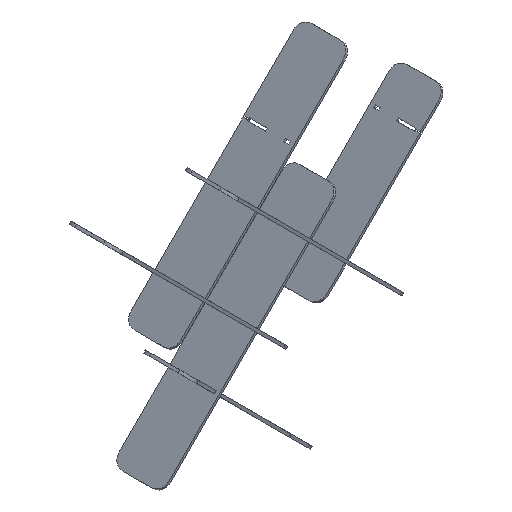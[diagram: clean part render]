
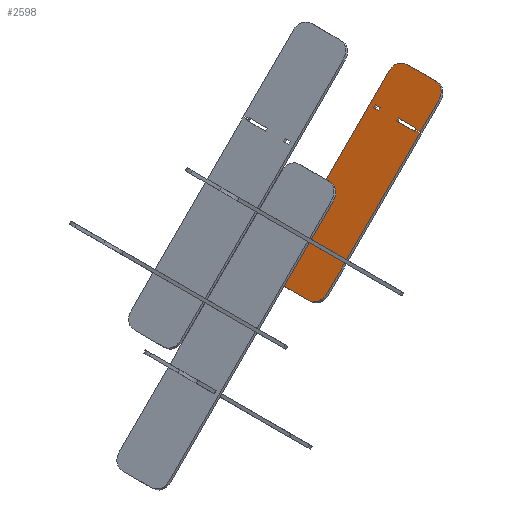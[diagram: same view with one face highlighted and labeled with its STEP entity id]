
A CAD part, isometric view. The second image highlights one B-rep face of the part: STEP entity #2598.
In plain terms, the highlighted planar face has unit normal (-0.707, 0, 0.707) as drawn and (0, 0, 1) by its records, which use the part's own axes.
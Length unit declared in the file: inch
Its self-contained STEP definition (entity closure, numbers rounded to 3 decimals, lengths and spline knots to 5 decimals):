
#61=FACE_BOUND('',#443,.T.);
#62=FACE_BOUND('',#444,.T.);
#176=PLANE('',#2824);
#302=FACE_OUTER_BOUND('',#442,.T.);
#442=EDGE_LOOP('',(#2429,#2430,#2431,#2432,#2433,#2434,#2435,#2436,#2437,
#2438,#2439,#2440,#2441,#2442,#2443,#2444,#2445,#2446,#2447,#2448,#2449,
#2450,#2451,#2452));
#443=EDGE_LOOP('',(#2453,#2454,#2455,#2456));
#444=EDGE_LOOP('',(#2457,#2458,#2459,#2460));
#697=LINE('',#4037,#1033);
#728=LINE('',#4107,#1064);
#731=LINE('',#4115,#1067);
#734=LINE('',#4124,#1070);
#736=LINE('',#4128,#1072);
#738=LINE('',#4132,#1074);
#740=LINE('',#4135,#1076);
#742=LINE('',#4140,#1078);
#744=LINE('',#4144,#1080);
#746=LINE('',#4148,#1082);
#748=LINE('',#4151,#1084);
#749=LINE('',#4154,#1085);
#751=LINE('',#4158,#1087);
#753=LINE('',#4162,#1089);
#755=LINE('',#4166,#1091);
#757=LINE('',#4170,#1093);
#759=LINE('',#4174,#1095);
#761=LINE('',#4178,#1097);
#763=LINE('',#4182,#1099);
#765=LINE('',#4186,#1101);
#767=LINE('',#4190,#1103);
#769=LINE('',#4194,#1105);
#771=LINE('',#4198,#1107);
#773=LINE('',#4202,#1109);
#775=LINE('',#4206,#1111);
#777=LINE('',#4210,#1113);
#779=LINE('',#4213,#1115);
#780=LINE('',#4215,#1116);
#1033=VECTOR('',#3315,0.3937);
#1064=VECTOR('',#3360,0.3937);
#1067=VECTOR('',#3369,0.3937);
#1070=VECTOR('',#3378,0.3937);
#1072=VECTOR('',#3382,0.3937);
#1074=VECTOR('',#3386,0.3937);
#1076=VECTOR('',#3390,0.3937);
#1078=VECTOR('',#3394,0.3937);
#1080=VECTOR('',#3398,0.3937);
#1082=VECTOR('',#3402,0.3937);
#1084=VECTOR('',#3406,0.3937);
#1085=VECTOR('',#3409,0.3937);
#1087=VECTOR('',#3413,0.3937);
#1089=VECTOR('',#3417,0.3937);
#1091=VECTOR('',#3421,0.3937);
#1093=VECTOR('',#3425,0.3937);
#1095=VECTOR('',#3429,0.3937);
#1097=VECTOR('',#3433,0.3937);
#1099=VECTOR('',#3437,0.3937);
#1101=VECTOR('',#3441,0.3937);
#1103=VECTOR('',#3445,0.3937);
#1105=VECTOR('',#3449,0.3937);
#1107=VECTOR('',#3453,0.3937);
#1109=VECTOR('',#3457,0.3937);
#1111=VECTOR('',#3461,0.3937);
#1113=VECTOR('',#3465,0.3937);
#1115=VECTOR('',#3469,0.3937);
#1116=VECTOR('',#3472,0.3937);
#1133=CIRCLE('',#2784,2.);
#1138=CIRCLE('',#2792,2.);
#1139=CIRCLE('',#2795,2.);
#1140=CIRCLE('',#2798,2.);
#1317=VERTEX_POINT('',#4024);
#1318=VERTEX_POINT('',#4025);
#1322=VERTEX_POINT('',#4035);
#1352=VERTEX_POINT('',#4099);
#1353=VERTEX_POINT('',#4100);
#1354=VERTEX_POINT('',#4105);
#1355=VERTEX_POINT('',#4109);
#1356=VERTEX_POINT('',#4113);
#1357=VERTEX_POINT('',#4117);
#1358=VERTEX_POINT('',#4121);
#1359=VERTEX_POINT('',#4123);
#1360=VERTEX_POINT('',#4127);
#1361=VERTEX_POINT('',#4131);
#1362=VERTEX_POINT('',#4137);
#1363=VERTEX_POINT('',#4139);
#1364=VERTEX_POINT('',#4143);
#1365=VERTEX_POINT('',#4147);
#1366=VERTEX_POINT('',#4153);
#1367=VERTEX_POINT('',#4157);
#1368=VERTEX_POINT('',#4161);
#1369=VERTEX_POINT('',#4165);
#1370=VERTEX_POINT('',#4169);
#1371=VERTEX_POINT('',#4173);
#1372=VERTEX_POINT('',#4177);
#1373=VERTEX_POINT('',#4181);
#1374=VERTEX_POINT('',#4185);
#1375=VERTEX_POINT('',#4189);
#1376=VERTEX_POINT('',#4193);
#1377=VERTEX_POINT('',#4197);
#1378=VERTEX_POINT('',#4201);
#1379=VERTEX_POINT('',#4205);
#1380=VERTEX_POINT('',#4209);
#1645=EDGE_CURVE('',#1317,#1318,#1133,.T.);
#1651=EDGE_CURVE('',#1317,#1322,#697,.T.);
#1682=EDGE_CURVE('',#1352,#1353,#1138,.T.);
#1686=EDGE_CURVE('',#1352,#1354,#728,.T.);
#1687=EDGE_CURVE('',#1355,#1354,#1139,.T.);
#1690=EDGE_CURVE('',#1355,#1356,#731,.T.);
#1691=EDGE_CURVE('',#1357,#1356,#1140,.T.);
#1694=EDGE_CURVE('',#1359,#1358,#734,.T.);
#1696=EDGE_CURVE('',#1360,#1359,#736,.T.);
#1698=EDGE_CURVE('',#1361,#1360,#738,.T.);
#1700=EDGE_CURVE('',#1358,#1361,#740,.T.);
#1702=EDGE_CURVE('',#1363,#1362,#742,.T.);
#1704=EDGE_CURVE('',#1364,#1363,#744,.T.);
#1706=EDGE_CURVE('',#1365,#1364,#746,.T.);
#1708=EDGE_CURVE('',#1362,#1365,#748,.T.);
#1709=EDGE_CURVE('',#1366,#1353,#749,.T.);
#1711=EDGE_CURVE('',#1367,#1366,#751,.T.);
#1713=EDGE_CURVE('',#1368,#1367,#753,.T.);
#1715=EDGE_CURVE('',#1369,#1368,#755,.T.);
#1717=EDGE_CURVE('',#1370,#1369,#757,.T.);
#1719=EDGE_CURVE('',#1371,#1370,#759,.T.);
#1721=EDGE_CURVE('',#1372,#1371,#761,.T.);
#1723=EDGE_CURVE('',#1373,#1372,#763,.T.);
#1725=EDGE_CURVE('',#1374,#1373,#765,.T.);
#1727=EDGE_CURVE('',#1375,#1374,#767,.T.);
#1729=EDGE_CURVE('',#1376,#1375,#769,.T.);
#1731=EDGE_CURVE('',#1377,#1376,#771,.T.);
#1733=EDGE_CURVE('',#1378,#1377,#773,.T.);
#1735=EDGE_CURVE('',#1379,#1378,#775,.T.);
#1737=EDGE_CURVE('',#1380,#1379,#777,.T.);
#1739=EDGE_CURVE('',#1322,#1380,#779,.T.);
#1740=EDGE_CURVE('',#1357,#1318,#780,.T.);
#2429=ORIENTED_EDGE('',*,*,#1645,.F.);
#2430=ORIENTED_EDGE('',*,*,#1651,.T.);
#2431=ORIENTED_EDGE('',*,*,#1739,.T.);
#2432=ORIENTED_EDGE('',*,*,#1737,.T.);
#2433=ORIENTED_EDGE('',*,*,#1735,.T.);
#2434=ORIENTED_EDGE('',*,*,#1733,.T.);
#2435=ORIENTED_EDGE('',*,*,#1731,.T.);
#2436=ORIENTED_EDGE('',*,*,#1729,.T.);
#2437=ORIENTED_EDGE('',*,*,#1727,.T.);
#2438=ORIENTED_EDGE('',*,*,#1725,.T.);
#2439=ORIENTED_EDGE('',*,*,#1723,.T.);
#2440=ORIENTED_EDGE('',*,*,#1721,.T.);
#2441=ORIENTED_EDGE('',*,*,#1719,.T.);
#2442=ORIENTED_EDGE('',*,*,#1717,.T.);
#2443=ORIENTED_EDGE('',*,*,#1715,.T.);
#2444=ORIENTED_EDGE('',*,*,#1713,.T.);
#2445=ORIENTED_EDGE('',*,*,#1711,.T.);
#2446=ORIENTED_EDGE('',*,*,#1709,.T.);
#2447=ORIENTED_EDGE('',*,*,#1682,.F.);
#2448=ORIENTED_EDGE('',*,*,#1686,.T.);
#2449=ORIENTED_EDGE('',*,*,#1687,.F.);
#2450=ORIENTED_EDGE('',*,*,#1690,.T.);
#2451=ORIENTED_EDGE('',*,*,#1691,.F.);
#2452=ORIENTED_EDGE('',*,*,#1740,.T.);
#2453=ORIENTED_EDGE('',*,*,#1708,.T.);
#2454=ORIENTED_EDGE('',*,*,#1706,.T.);
#2455=ORIENTED_EDGE('',*,*,#1704,.T.);
#2456=ORIENTED_EDGE('',*,*,#1702,.T.);
#2457=ORIENTED_EDGE('',*,*,#1700,.T.);
#2458=ORIENTED_EDGE('',*,*,#1698,.T.);
#2459=ORIENTED_EDGE('',*,*,#1696,.T.);
#2460=ORIENTED_EDGE('',*,*,#1694,.T.);
#2598=ADVANCED_FACE('',(#302,#61,#62),#176,.T.);
#2784=AXIS2_PLACEMENT_3D('',#4026,#3305,#3306);
#2792=AXIS2_PLACEMENT_3D('',#4101,#3353,#3354);
#2795=AXIS2_PLACEMENT_3D('',#4110,#3363,#3364);
#2798=AXIS2_PLACEMENT_3D('',#4118,#3372,#3373);
#2824=AXIS2_PLACEMENT_3D('',#4216,#3473,#3474);
#3305=DIRECTION('center_axis',(0.,0.,-1.));
#3306=DIRECTION('ref_axis',(-0.707,-0.707,0.));
#3315=DIRECTION('',(1.,0.,0.));
#3353=DIRECTION('center_axis',(0.,0.,-1.));
#3354=DIRECTION('ref_axis',(0.707,-0.707,0.));
#3360=DIRECTION('',(0.,1.,0.));
#3363=DIRECTION('center_axis',(0.,0.,-1.));
#3364=DIRECTION('ref_axis',(0.707,0.707,0.));
#3369=DIRECTION('',(-1.,0.,0.));
#3372=DIRECTION('center_axis',(0.,0.,-1.));
#3373=DIRECTION('ref_axis',(-0.707,0.707,0.));
#3378=DIRECTION('',(0.,1.,0.));
#3382=DIRECTION('',(-1.,0.,0.));
#3386=DIRECTION('',(0.,-1.,0.));
#3390=DIRECTION('',(1.,0.,0.));
#3394=DIRECTION('',(0.,1.,0.));
#3398=DIRECTION('',(-1.,0.,0.));
#3402=DIRECTION('',(0.,-1.,0.));
#3406=DIRECTION('',(1.,0.,0.));
#3409=DIRECTION('',(1.,0.,0.));
#3413=DIRECTION('',(0.,-1.,0.));
#3417=DIRECTION('',(-1.,0.,0.));
#3421=DIRECTION('',(0.,-1.,0.));
#3425=DIRECTION('',(1.,0.,0.));
#3429=DIRECTION('',(0.,1.,0.));
#3433=DIRECTION('',(-1.,0.,0.));
#3437=DIRECTION('',(0.,1.,0.));
#3441=DIRECTION('',(1.,0.,0.));
#3445=DIRECTION('',(0.,-1.,0.));
#3449=DIRECTION('',(-1.,0.,0.));
#3453=DIRECTION('',(0.,-1.,0.));
#3457=DIRECTION('',(1.,0.,0.));
#3461=DIRECTION('',(0.,1.,0.));
#3465=DIRECTION('',(-1.,0.,0.));
#3469=DIRECTION('',(0.,1.,0.));
#3472=DIRECTION('',(0.,-1.,0.));
#3473=DIRECTION('center_axis',(0.,0.,1.));
#3474=DIRECTION('ref_axis',(1.,0.,0.));
#4024=CARTESIAN_POINT('',(2.,0.,0.48));
#4025=CARTESIAN_POINT('',(0.,2.,0.48));
#4026=CARTESIAN_POINT('Origin',(2.,2.,0.48));
#4035=CARTESIAN_POINT('',(6.93943,0.,0.48));
#4037=CARTESIAN_POINT('',(0.,0.,0.48));
#4099=CARTESIAN_POINT('',(34.,2.,0.48));
#4100=CARTESIAN_POINT('',(32.,0.,0.48));
#4101=CARTESIAN_POINT('Origin',(32.,2.,0.48));
#4105=CARTESIAN_POINT('',(34.,7.5,0.48));
#4107=CARTESIAN_POINT('',(34.,0.,0.48));
#4109=CARTESIAN_POINT('',(32.,9.5,0.48));
#4110=CARTESIAN_POINT('Origin',(32.,7.5,0.48));
#4113=CARTESIAN_POINT('',(2.,9.5,0.48));
#4115=CARTESIAN_POINT('',(34.,9.5,0.48));
#4117=CARTESIAN_POINT('',(0.,7.5,0.48));
#4118=CARTESIAN_POINT('Origin',(2.,7.5,0.48));
#4121=CARTESIAN_POINT('',(6.79943,8.68,0.48));
#4123=CARTESIAN_POINT('',(6.79943,7.74,0.48));
#4124=CARTESIAN_POINT('',(6.79943,7.74,0.48));
#4127=CARTESIAN_POINT('',(7.25947,7.74,0.48));
#4128=CARTESIAN_POINT('',(7.25947,7.74,0.48));
#4131=CARTESIAN_POINT('',(7.25947,8.68,0.48));
#4132=CARTESIAN_POINT('',(7.25947,8.68,0.48));
#4135=CARTESIAN_POINT('',(6.79943,8.68,0.48));
#4137=CARTESIAN_POINT('',(26.74053,8.68,0.48));
#4139=CARTESIAN_POINT('',(26.74053,7.74,0.48));
#4140=CARTESIAN_POINT('',(26.74053,7.74,0.48));
#4143=CARTESIAN_POINT('',(27.20057,7.74,0.48));
#4144=CARTESIAN_POINT('',(27.20057,7.74,0.48));
#4147=CARTESIAN_POINT('',(27.20057,8.68,0.48));
#4148=CARTESIAN_POINT('',(27.20057,8.68,0.48));
#4151=CARTESIAN_POINT('',(26.74053,8.68,0.48));
#4153=CARTESIAN_POINT('',(27.06057,0.,0.48));
#4154=CARTESIAN_POINT('',(0.,0.,0.48));
#4157=CARTESIAN_POINT('',(27.06057,0.94,0.48));
#4158=CARTESIAN_POINT('',(27.06057,0.94,0.48));
#4161=CARTESIAN_POINT('',(27.20057,0.94,0.48));
#4162=CARTESIAN_POINT('',(27.20057,0.94,0.48));
#4165=CARTESIAN_POINT('',(27.20057,4.34004,0.48));
#4166=CARTESIAN_POINT('',(27.20057,4.34004,0.48));
#4169=CARTESIAN_POINT('',(26.74053,4.34004,0.48));
#4170=CARTESIAN_POINT('',(26.74053,4.34004,0.48));
#4173=CARTESIAN_POINT('',(26.74053,0.94,0.48));
#4174=CARTESIAN_POINT('',(26.74053,0.94,0.48));
#4177=CARTESIAN_POINT('',(26.88053,0.94,0.48));
#4178=CARTESIAN_POINT('',(26.88053,0.94,0.48));
#4181=CARTESIAN_POINT('',(26.88053,0.,0.48));
#4182=CARTESIAN_POINT('',(26.88053,0.,0.48));
#4185=CARTESIAN_POINT('',(7.11947,0.,0.48));
#4186=CARTESIAN_POINT('',(0.,0.,0.48));
#4189=CARTESIAN_POINT('',(7.11947,0.94,0.48));
#4190=CARTESIAN_POINT('',(7.11947,0.94,0.48));
#4193=CARTESIAN_POINT('',(7.25947,0.94,0.48));
#4194=CARTESIAN_POINT('',(7.25947,0.94,0.48));
#4197=CARTESIAN_POINT('',(7.25947,4.34004,0.48));
#4198=CARTESIAN_POINT('',(7.25947,4.34004,0.48));
#4201=CARTESIAN_POINT('',(6.79943,4.34004,0.48));
#4202=CARTESIAN_POINT('',(6.79943,4.34004,0.48));
#4205=CARTESIAN_POINT('',(6.79943,0.94,0.48));
#4206=CARTESIAN_POINT('',(6.79943,0.94,0.48));
#4209=CARTESIAN_POINT('',(6.93943,0.94,0.48));
#4210=CARTESIAN_POINT('',(6.93943,0.94,0.48));
#4213=CARTESIAN_POINT('',(6.93943,0.,0.48));
#4215=CARTESIAN_POINT('',(0.,9.5,0.48));
#4216=CARTESIAN_POINT('Origin',(17.,4.75,0.48));
